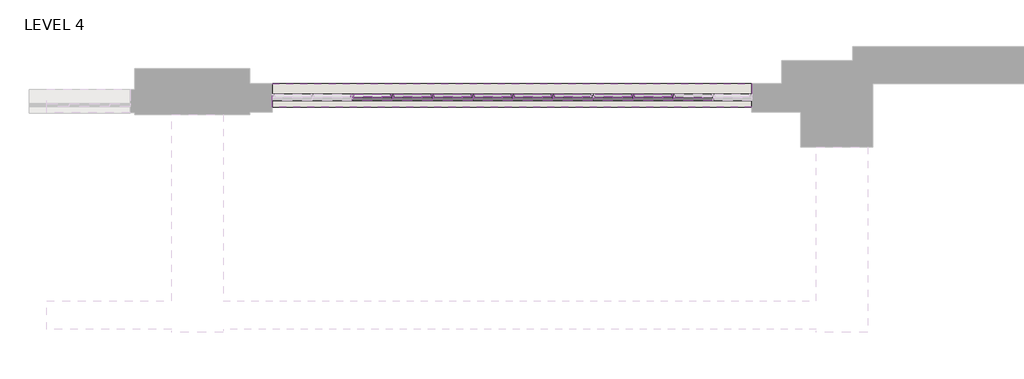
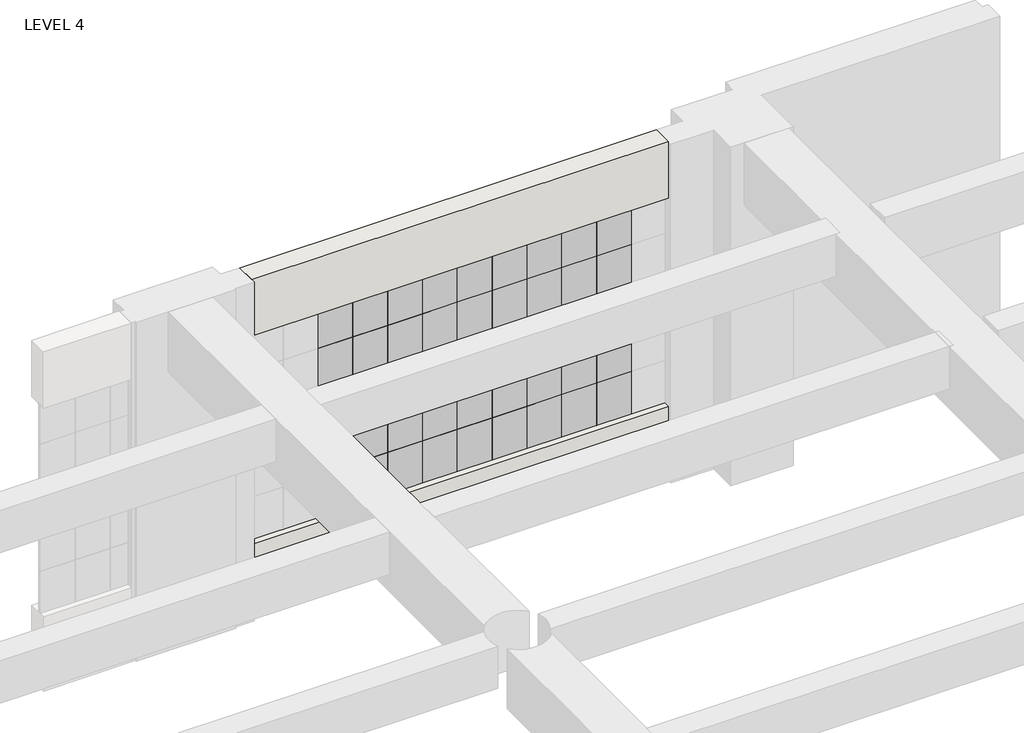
# One storey, part 14 of 26: 87 members, 45 plates, 2 walls.
"""IFC4 building model written with IfcOpenShell, lengths in millimetres."""

from ifc_helpers import new_model, si_unit, frame, origin, origin_with_axes, place, context, project, spatial, polyline, outline, extrude, transform, mapped, element, save
from components import member_d9fec558, member_3d4b608b, member_3c10d71f, member_653bb31e, system_panel_glazed_ab35d819, system_panel_glazed_418eb6cd

model = new_model("IFC4")

# Units and contexts
model_context = context("Model", 3, world=origin())
ifc_project = project(units=[si_unit("LENGTHUNIT", "METRE", prefix="MILLI")], contexts=[model_context])

# Site, building, storey
site = spatial("IfcSite", under=ifc_project)
building = spatial("IfcBuilding", under=site)
storey = spatial("IfcBuildingStorey", under=building, Name="LEVEL 4", Elevation=0.0)

# Members
placement = place(None, origin())
member_shape = member_d9fec558(model_context)
element("IfcMember", 1, ObjectType="Circular Mullion : 1 1/4\" Square", at=placement, inside=storey, context=model_context, shape_type="MappedRepresentation", body=[
    mapped(member_shape, transform((-10237.808547, 117287.443307, 2628.9), x_axis=(1.0, 0.0, 0.0), y_axis=(0.0, -1.0, 0.0), z_axis=(0.0, 0.0, -1.0))),
])
element("IfcMember", 2, ObjectType="Circular Mullion : 1 1/4\" Square", at=placement, inside=storey, context=model_context, shape_type="MappedRepresentation", body=[
    mapped(member_shape, transform((-10593.408547, 117287.443307, 2628.9), x_axis=(1.0, 0.0, 0.0), y_axis=(0.0, -1.0, 0.0), z_axis=(0.0, 0.0, -1.0))),
])
element("IfcMember", 3, ObjectType="Circular Mullion : 1 1/4\" Square", at=placement, inside=storey, context=model_context, shape_type="MappedRepresentation", body=[
    mapped(member_shape, transform((-11304.608547, 117287.443307, 2628.9), x_axis=(1.0, 0.0, 0.0), y_axis=(0.0, -1.0, 0.0), z_axis=(0.0, 0.0, -1.0))),
])
element("IfcMember", 4, ObjectType="Circular Mullion : 1 1/4\" Square", at=placement, inside=storey, context=model_context, shape_type="MappedRepresentation", body=[
    mapped(member_shape, transform((-11660.208547, 117287.443307, 2628.9), x_axis=(1.0, 0.0, 0.0), y_axis=(0.0, -1.0, 0.0), z_axis=(0.0, 0.0, -1.0))),
])
element("IfcMember", 5, ObjectType="Circular Mullion : 1 1/4\" Square", at=placement, inside=storey, context=model_context, shape_type="MappedRepresentation", body=[
    mapped(member_shape, transform((-12015.808547, 117287.443307, 2628.9), x_axis=(1.0, 0.0, 0.0), y_axis=(0.0, -1.0, 0.0), z_axis=(0.0, 0.0, -1.0))),
])
element("IfcMember", 6, ObjectType="Circular Mullion : 1 1/4\" Square", at=placement, inside=storey, context=model_context, shape_type="MappedRepresentation", body=[
    mapped(member_shape, transform((-12371.408547, 117287.443307, 2628.9), x_axis=(1.0, 0.0, 0.0), y_axis=(0.0, -1.0, 0.0), z_axis=(0.0, 0.0, -1.0))),
])
element("IfcMember", 7, ObjectType="Circular Mullion : 1 1/4\" Square", at=placement, inside=storey, context=model_context, shape_type="MappedRepresentation", body=[
    mapped(member_shape, transform((-12727.008547, 117287.443307, 2628.9), x_axis=(1.0, 0.0, 0.0), y_axis=(0.0, -1.0, 0.0), z_axis=(0.0, 0.0, -1.0))),
])
element("IfcMember", 8, ObjectType="Circular Mullion : 1 1/4\" Square", at=placement, inside=storey, context=model_context, shape_type="MappedRepresentation", body=[
    mapped(member_shape, transform((-13082.608547, 117287.443307, 2628.9), x_axis=(1.0, 0.0, 0.0), y_axis=(0.0, -1.0, 0.0), z_axis=(0.0, 0.0, -1.0))),
])
member_2_shape = member_3d4b608b(model_context)
element("IfcMember", 9, ObjectType="Circular Mullion : 1 1/4\" Square", at=placement, inside=storey, context=model_context, shape_type="MappedRepresentation", body=[
    mapped(member_2_shape, transform((-10237.808547, 117287.443307, 1257.3), x_axis=(1.0, 0.0, 0.0), y_axis=(0.0, -1.0, 0.0), z_axis=(0.0, 0.0, -1.0))),
])
element("IfcMember", 10, ObjectType="Circular Mullion : 1 1/4\" Square", at=placement, inside=storey, context=model_context, shape_type="MappedRepresentation", body=[
    mapped(member_2_shape, transform((-10237.808547, 117287.443307, 1714.5), x_axis=(1.0, 0.0, 0.0), y_axis=(0.0, -1.0, 0.0), z_axis=(0.0, 0.0, -1.0))),
])
element("IfcMember", 11, ObjectType="Circular Mullion : 1 1/4\" Square", at=placement, inside=storey, context=model_context, shape_type="MappedRepresentation", body=[
    mapped(member_2_shape, transform((-10237.808547, 117287.443307, 2171.7), x_axis=(1.0, 0.0, 0.0), y_axis=(0.0, -1.0, 0.0), z_axis=(0.0, 0.0, -1.0))),
])
element("IfcMember", 12, ObjectType="Circular Mullion : 1 1/4\" Square", at=placement, inside=storey, context=model_context, shape_type="MappedRepresentation", body=[
    mapped(member_2_shape, transform((-10593.408547, 117287.443307, 1257.3), x_axis=(1.0, 0.0, 0.0), y_axis=(0.0, -1.0, 0.0), z_axis=(0.0, 0.0, -1.0))),
])
element("IfcMember", 13, ObjectType="Circular Mullion : 1 1/4\" Square", at=placement, inside=storey, context=model_context, shape_type="MappedRepresentation", body=[
    mapped(member_2_shape, transform((-10593.408547, 117287.443307, 1714.5), x_axis=(1.0, 0.0, 0.0), y_axis=(0.0, -1.0, 0.0), z_axis=(0.0, 0.0, -1.0))),
])
element("IfcMember", 14, ObjectType="Circular Mullion : 1 1/4\" Square", at=placement, inside=storey, context=model_context, shape_type="MappedRepresentation", body=[
    mapped(member_2_shape, transform((-10593.408547, 117287.443307, 2171.7), x_axis=(1.0, 0.0, 0.0), y_axis=(0.0, -1.0, 0.0), z_axis=(0.0, 0.0, -1.0))),
])
element("IfcMember", 15, ObjectType="Circular Mullion : 1 1/4\" Square", at=placement, inside=storey, context=model_context, shape_type="MappedRepresentation", body=[
    mapped(member_2_shape, transform((-10949.008547, 117287.443307, 1257.3), x_axis=(1.0, 0.0, 0.0), y_axis=(0.0, -1.0, 0.0), z_axis=(0.0, 0.0, -1.0))),
])
element("IfcMember", 16, ObjectType="Circular Mullion : 1 1/4\" Square", at=placement, inside=storey, context=model_context, shape_type="MappedRepresentation", body=[
    mapped(member_2_shape, transform((-11304.608547, 117287.443307, 1257.3), x_axis=(1.0, 0.0, 0.0), y_axis=(0.0, -1.0, 0.0), z_axis=(0.0, 0.0, -1.0))),
])
element("IfcMember", 17, ObjectType="Circular Mullion : 1 1/4\" Square", at=placement, inside=storey, context=model_context, shape_type="MappedRepresentation", body=[
    mapped(member_2_shape, transform((-11304.608547, 117287.443307, 1714.5), x_axis=(1.0, 0.0, 0.0), y_axis=(0.0, -1.0, 0.0), z_axis=(0.0, 0.0, -1.0))),
])
element("IfcMember", 18, ObjectType="Circular Mullion : 1 1/4\" Square", at=placement, inside=storey, context=model_context, shape_type="MappedRepresentation", body=[
    mapped(member_2_shape, transform((-11304.608547, 117287.443307, 2171.7), x_axis=(1.0, 0.0, 0.0), y_axis=(0.0, -1.0, 0.0), z_axis=(0.0, 0.0, -1.0))),
])
element("IfcMember", 19, ObjectType="Circular Mullion : 1 1/4\" Square", at=placement, inside=storey, context=model_context, shape_type="MappedRepresentation", body=[
    mapped(member_2_shape, transform((-11660.208547, 117287.443307, 1257.3), x_axis=(1.0, 0.0, 0.0), y_axis=(0.0, -1.0, 0.0), z_axis=(0.0, 0.0, -1.0))),
])
element("IfcMember", 20, ObjectType="Circular Mullion : 1 1/4\" Square", at=placement, inside=storey, context=model_context, shape_type="MappedRepresentation", body=[
    mapped(member_2_shape, transform((-11660.208547, 117287.443307, 1714.5), x_axis=(1.0, 0.0, 0.0), y_axis=(0.0, -1.0, 0.0), z_axis=(0.0, 0.0, -1.0))),
])
element("IfcMember", 21, ObjectType="Circular Mullion : 1 1/4\" Square", at=placement, inside=storey, context=model_context, shape_type="MappedRepresentation", body=[
    mapped(member_2_shape, transform((-11660.208547, 117287.443307, 2171.7), x_axis=(1.0, 0.0, 0.0), y_axis=(0.0, -1.0, 0.0), z_axis=(0.0, 0.0, -1.0))),
])
element("IfcMember", 22, ObjectType="Circular Mullion : 1 1/4\" Square", at=placement, inside=storey, context=model_context, shape_type="MappedRepresentation", body=[
    mapped(member_2_shape, transform((-12015.808547, 117287.443307, 1257.3), x_axis=(1.0, 0.0, 0.0), y_axis=(0.0, -1.0, 0.0), z_axis=(0.0, 0.0, -1.0))),
])
element("IfcMember", 23, ObjectType="Circular Mullion : 1 1/4\" Square", at=placement, inside=storey, context=model_context, shape_type="MappedRepresentation", body=[
    mapped(member_2_shape, transform((-12015.808547, 117287.443307, 1714.5), x_axis=(1.0, 0.0, 0.0), y_axis=(0.0, -1.0, 0.0), z_axis=(0.0, 0.0, -1.0))),
])
element("IfcMember", 24, ObjectType="Circular Mullion : 1 1/4\" Square", at=placement, inside=storey, context=model_context, shape_type="MappedRepresentation", body=[
    mapped(member_2_shape, transform((-12015.808547, 117287.443307, 2171.7), x_axis=(1.0, 0.0, 0.0), y_axis=(0.0, -1.0, 0.0), z_axis=(0.0, 0.0, -1.0))),
])
element("IfcMember", 25, ObjectType="Circular Mullion : 1 1/4\" Square", at=placement, inside=storey, context=model_context, shape_type="MappedRepresentation", body=[
    mapped(member_2_shape, transform((-12371.408547, 117287.443307, 1257.3), x_axis=(1.0, 0.0, 0.0), y_axis=(0.0, -1.0, 0.0), z_axis=(0.0, 0.0, -1.0))),
])
element("IfcMember", 26, ObjectType="Circular Mullion : 1 1/4\" Square", at=placement, inside=storey, context=model_context, shape_type="MappedRepresentation", body=[
    mapped(member_2_shape, transform((-12371.408547, 117287.443307, 1714.5), x_axis=(1.0, 0.0, 0.0), y_axis=(0.0, -1.0, 0.0), z_axis=(0.0, 0.0, -1.0))),
])
element("IfcMember", 27, ObjectType="Circular Mullion : 1 1/4\" Square", at=placement, inside=storey, context=model_context, shape_type="MappedRepresentation", body=[
    mapped(member_2_shape, transform((-12371.408547, 117287.443307, 2171.7), x_axis=(1.0, 0.0, 0.0), y_axis=(0.0, -1.0, 0.0), z_axis=(0.0, 0.0, -1.0))),
])
element("IfcMember", 28, ObjectType="Circular Mullion : 1 1/4\" Square", at=placement, inside=storey, context=model_context, shape_type="MappedRepresentation", body=[
    mapped(member_2_shape, transform((-12727.008547, 117287.443307, 1257.3), x_axis=(1.0, 0.0, 0.0), y_axis=(0.0, -1.0, 0.0), z_axis=(0.0, 0.0, -1.0))),
])
element("IfcMember", 29, ObjectType="Circular Mullion : 1 1/4\" Square", at=placement, inside=storey, context=model_context, shape_type="MappedRepresentation", body=[
    mapped(member_2_shape, transform((-12727.008547, 117287.443307, 1714.5), x_axis=(1.0, 0.0, 0.0), y_axis=(0.0, -1.0, 0.0), z_axis=(0.0, 0.0, -1.0))),
])
element("IfcMember", 30, ObjectType="Circular Mullion : 1 1/4\" Square", at=placement, inside=storey, context=model_context, shape_type="MappedRepresentation", body=[
    mapped(member_2_shape, transform((-12727.008547, 117287.443307, 2171.7), x_axis=(1.0, 0.0, 0.0), y_axis=(0.0, -1.0, 0.0), z_axis=(0.0, 0.0, -1.0))),
])
element("IfcMember", 31, ObjectType="Circular Mullion : 1 1/4\" Square", at=placement, inside=storey, context=model_context, shape_type="MappedRepresentation", body=[
    mapped(member_2_shape, transform((-13082.608547, 117287.443307, 2171.7), x_axis=(1.0, 0.0, 0.0), y_axis=(0.0, -1.0, 0.0), z_axis=(0.0, 0.0, -1.0))),
])
element("IfcMember", 32, ObjectType="Circular Mullion : 1 1/4\" Square", at=placement, inside=storey, context=model_context, shape_type="MappedRepresentation", body=[
    mapped(member_2_shape, transform((-10237.808547, 117287.443307, 800.1), x_axis=(1.0, 0.0, 0.0), y_axis=(0.0, -1.0, 0.0), z_axis=(0.0, 0.0, -1.0))),
])
element("IfcMember", 33, ObjectType="Circular Mullion : 1 1/4\" Square", at=placement, inside=storey, context=model_context, shape_type="MappedRepresentation", body=[
    mapped(member_2_shape, transform((-10593.408547, 117287.443307, 800.1), x_axis=(1.0, 0.0, 0.0), y_axis=(0.0, -1.0, 0.0), z_axis=(0.0, 0.0, -1.0))),
])
element("IfcMember", 34, ObjectType="Circular Mullion : 1 1/4\" Square", at=placement, inside=storey, context=model_context, shape_type="MappedRepresentation", body=[
    mapped(member_2_shape, transform((-10949.008547, 117287.443307, 800.1), x_axis=(1.0, 0.0, 0.0), y_axis=(0.0, -1.0, 0.0), z_axis=(0.0, 0.0, -1.0))),
])
element("IfcMember", 35, ObjectType="Circular Mullion : 1 1/4\" Square", at=placement, inside=storey, context=model_context, shape_type="MappedRepresentation", body=[
    mapped(member_2_shape, transform((-11304.608547, 117287.443307, 800.1), x_axis=(1.0, 0.0, 0.0), y_axis=(0.0, -1.0, 0.0), z_axis=(0.0, 0.0, -1.0))),
])
element("IfcMember", 36, ObjectType="Circular Mullion : 1 1/4\" Square", at=placement, inside=storey, context=model_context, shape_type="MappedRepresentation", body=[
    mapped(member_2_shape, transform((-11660.208547, 117287.443307, 800.1), x_axis=(1.0, 0.0, 0.0), y_axis=(0.0, -1.0, 0.0), z_axis=(0.0, 0.0, -1.0))),
])
element("IfcMember", 37, ObjectType="Circular Mullion : 1 1/4\" Square", at=placement, inside=storey, context=model_context, shape_type="MappedRepresentation", body=[
    mapped(member_2_shape, transform((-12015.808547, 117287.443307, 800.1), x_axis=(1.0, 0.0, 0.0), y_axis=(0.0, -1.0, 0.0), z_axis=(0.0, 0.0, -1.0))),
])
element("IfcMember", 38, ObjectType="Circular Mullion : 1 1/4\" Square", at=placement, inside=storey, context=model_context, shape_type="MappedRepresentation", body=[
    mapped(member_2_shape, transform((-12371.408547, 117287.443307, 800.1), x_axis=(1.0, 0.0, 0.0), y_axis=(0.0, -1.0, 0.0), z_axis=(0.0, 0.0, -1.0))),
])
element("IfcMember", 39, ObjectType="Circular Mullion : 1 1/4\" Square", at=placement, inside=storey, context=model_context, shape_type="MappedRepresentation", body=[
    mapped(member_2_shape, transform((-12727.008547, 117287.443307, 800.1), x_axis=(1.0, 0.0, 0.0), y_axis=(0.0, -1.0, 0.0), z_axis=(0.0, 0.0, -1.0))),
])
member_3_shape = member_3c10d71f(model_context)
element("IfcMember", 40, ObjectType="Circular Mullion : 1 1/4\" Square", at=placement, inside=storey, context=model_context, shape_type="MappedRepresentation", body=[
    mapped(member_3_shape, transform((-10250.508547, 117287.443307, 3060.7), x_axis=(0.0, 0.0, 1.0), y_axis=(0.0, -1.0, 0.0), z_axis=(1.0, 0.0, 0.0))),
])
element("IfcMember", 41, ObjectType="Circular Mullion : 1 1/4\" Square", at=placement, inside=storey, context=model_context, shape_type="MappedRepresentation", body=[
    mapped(member_3_shape, transform((-10606.108547, 117287.443307, 3060.7), x_axis=(0.0, 0.0, 1.0), y_axis=(0.0, -1.0, 0.0), z_axis=(1.0, 0.0, 0.0))),
])
element("IfcMember", 42, ObjectType="Circular Mullion : 1 1/4\" Square", at=placement, inside=storey, context=model_context, shape_type="MappedRepresentation", body=[
    mapped(member_3_shape, transform((-10961.708547, 117287.443307, 3060.7), x_axis=(0.0, 0.0, 1.0), y_axis=(0.0, -1.0, 0.0), z_axis=(1.0, 0.0, 0.0))),
])
element("IfcMember", 43, ObjectType="Circular Mullion : 1 1/4\" Square", at=placement, inside=storey, context=model_context, shape_type="MappedRepresentation", body=[
    mapped(member_3_shape, transform((-11317.308547, 117287.443307, 3060.7), x_axis=(0.0, 0.0, 1.0), y_axis=(0.0, -1.0, 0.0), z_axis=(1.0, 0.0, 0.0))),
])
element("IfcMember", 44, ObjectType="Circular Mullion : 1 1/4\" Square", at=placement, inside=storey, context=model_context, shape_type="MappedRepresentation", body=[
    mapped(member_3_shape, transform((-11672.908547, 117287.443307, 3060.7), x_axis=(0.0, 0.0, 1.0), y_axis=(0.0, -1.0, 0.0), z_axis=(1.0, 0.0, 0.0))),
])
element("IfcMember", 45, ObjectType="Circular Mullion : 1 1/4\" Square", at=placement, inside=storey, context=model_context, shape_type="MappedRepresentation", body=[
    mapped(member_3_shape, transform((-12028.508547, 117287.443307, 3060.7), x_axis=(0.0, 0.0, 1.0), y_axis=(0.0, -1.0, 0.0), z_axis=(1.0, 0.0, 0.0))),
])
element("IfcMember", 46, ObjectType="Circular Mullion : 1 1/4\" Square", at=placement, inside=storey, context=model_context, shape_type="MappedRepresentation", body=[
    mapped(member_3_shape, transform((-12384.108547, 117287.443307, 3060.7), x_axis=(0.0, 0.0, 1.0), y_axis=(0.0, -1.0, 0.0), z_axis=(1.0, 0.0, 0.0))),
])
element("IfcMember", 47, ObjectType="Circular Mullion : 1 1/4\" Square", at=placement, inside=storey, context=model_context, shape_type="MappedRepresentation", body=[
    mapped(member_3_shape, transform((-12739.708547, 117287.443307, 3060.7), x_axis=(0.0, 0.0, 1.0), y_axis=(0.0, -1.0, 0.0), z_axis=(1.0, 0.0, 0.0))),
])
element("IfcMember", 48, ObjectType="Circular Mullion : 1 1/4\" Square", at=placement, inside=storey, context=model_context, shape_type="MappedRepresentation", body=[
    mapped(member_3_shape, transform((-10225.108547, 117287.443307, 800.1), x_axis=(0.0, 0.0, -1.0), y_axis=(0.0, -1.0, 0.0), z_axis=(-1.0, 0.0, 0.0))),
])
element("IfcMember", 49, ObjectType="Circular Mullion : 1 1/4\" Square", at=placement, inside=storey, context=model_context, shape_type="MappedRepresentation", body=[
    mapped(member_3_shape, transform((-10580.708547, 117287.443307, 800.1), x_axis=(0.0, 0.0, -1.0), y_axis=(0.0, -1.0, 0.0), z_axis=(-1.0, 0.0, 0.0))),
])
element("IfcMember", 50, ObjectType="Circular Mullion : 1 1/4\" Square", at=placement, inside=storey, context=model_context, shape_type="MappedRepresentation", body=[
    mapped(member_3_shape, transform((-10936.308547, 117287.443307, 800.1), x_axis=(0.0, 0.0, -1.0), y_axis=(0.0, -1.0, 0.0), z_axis=(-1.0, 0.0, 0.0))),
])
element("IfcMember", 51, ObjectType="Circular Mullion : 1 1/4\" Square", at=placement, inside=storey, context=model_context, shape_type="MappedRepresentation", body=[
    mapped(member_3_shape, transform((-11291.908547, 117287.443307, 800.1), x_axis=(0.0, 0.0, -1.0), y_axis=(0.0, -1.0, 0.0), z_axis=(-1.0, 0.0, 0.0))),
])
element("IfcMember", 52, ObjectType="Circular Mullion : 1 1/4\" Square", at=placement, inside=storey, context=model_context, shape_type="MappedRepresentation", body=[
    mapped(member_3_shape, transform((-11647.508547, 117287.443307, 800.1), x_axis=(0.0, 0.0, -1.0), y_axis=(0.0, -1.0, 0.0), z_axis=(-1.0, 0.0, 0.0))),
])
element("IfcMember", 53, ObjectType="Circular Mullion : 1 1/4\" Square", at=placement, inside=storey, context=model_context, shape_type="MappedRepresentation", body=[
    mapped(member_3_shape, transform((-12003.108547, 117287.443307, 800.1), x_axis=(0.0, 0.0, -1.0), y_axis=(0.0, -1.0, 0.0), z_axis=(-1.0, 0.0, 0.0))),
])
element("IfcMember", 54, ObjectType="Circular Mullion : 1 1/4\" Square", at=placement, inside=storey, context=model_context, shape_type="MappedRepresentation", body=[
    mapped(member_3_shape, transform((-12358.708547, 117287.443307, 800.1), x_axis=(0.0, 0.0, -1.0), y_axis=(0.0, -1.0, 0.0), z_axis=(-1.0, 0.0, 0.0))),
])
element("IfcMember", 55, ObjectType="Circular Mullion : 1 1/4\" Square", at=placement, inside=storey, context=model_context, shape_type="MappedRepresentation", body=[
    mapped(member_3_shape, transform((-12714.308547, 117287.443307, 800.1), x_axis=(0.0, 0.0, -1.0), y_axis=(0.0, -1.0, 0.0), z_axis=(-1.0, 0.0, 0.0))),
])
member_4_shape = member_653bb31e(model_context)
element("IfcMember", 56, ObjectType="Circular Mullion : 1 1/4\" Square", at=placement, inside=storey, context=model_context, shape_type="MappedRepresentation", body=[
    mapped(member_4_shape, transform((-10250.508547, 117287.443307, 1257.3), x_axis=(0.0, 0.0, 1.0), y_axis=(0.0, -1.0, 0.0), z_axis=(1.0, 0.0, 0.0))),
])
element("IfcMember", 57, ObjectType="Circular Mullion : 1 1/4\" Square", at=placement, inside=storey, context=model_context, shape_type="MappedRepresentation", body=[
    mapped(member_4_shape, transform((-10606.108547, 117287.443307, 1257.3), x_axis=(0.0, 0.0, 1.0), y_axis=(0.0, -1.0, 0.0), z_axis=(1.0, 0.0, 0.0))),
])
element("IfcMember", 58, ObjectType="Circular Mullion : 1 1/4\" Square", at=placement, inside=storey, context=model_context, shape_type="MappedRepresentation", body=[
    mapped(member_4_shape, transform((-10961.708547, 117287.443307, 1257.3), x_axis=(0.0, 0.0, 1.0), y_axis=(0.0, -1.0, 0.0), z_axis=(1.0, 0.0, 0.0))),
])
element("IfcMember", 59, ObjectType="Circular Mullion : 1 1/4\" Square", at=placement, inside=storey, context=model_context, shape_type="MappedRepresentation", body=[
    mapped(member_4_shape, transform((-11317.308547, 117287.443307, 1257.3), x_axis=(0.0, 0.0, 1.0), y_axis=(0.0, -1.0, 0.0), z_axis=(1.0, 0.0, 0.0))),
])
element("IfcMember", 60, ObjectType="Circular Mullion : 1 1/4\" Square", at=placement, inside=storey, context=model_context, shape_type="MappedRepresentation", body=[
    mapped(member_4_shape, transform((-11672.908547, 117287.443307, 1257.3), x_axis=(0.0, 0.0, 1.0), y_axis=(0.0, -1.0, 0.0), z_axis=(1.0, 0.0, 0.0))),
])
element("IfcMember", 61, ObjectType="Circular Mullion : 1 1/4\" Square", at=placement, inside=storey, context=model_context, shape_type="MappedRepresentation", body=[
    mapped(member_4_shape, transform((-12028.508547, 117287.443307, 1257.3), x_axis=(0.0, 0.0, 1.0), y_axis=(0.0, -1.0, 0.0), z_axis=(1.0, 0.0, 0.0))),
])
element("IfcMember", 62, ObjectType="Circular Mullion : 1 1/4\" Square", at=placement, inside=storey, context=model_context, shape_type="MappedRepresentation", body=[
    mapped(member_4_shape, transform((-12384.108547, 117287.443307, 1257.3), x_axis=(0.0, 0.0, 1.0), y_axis=(0.0, -1.0, 0.0), z_axis=(1.0, 0.0, 0.0))),
])
element("IfcMember", 63, ObjectType="Circular Mullion : 1 1/4\" Square", at=placement, inside=storey, context=model_context, shape_type="MappedRepresentation", body=[
    mapped(member_4_shape, transform((-12739.708547, 117287.443307, 1257.3), x_axis=(0.0, 0.0, 1.0), y_axis=(0.0, -1.0, 0.0), z_axis=(1.0, 0.0, 0.0))),
])
element("IfcMember", 64, ObjectType="Circular Mullion : 1 1/4\" Square", at=placement, inside=storey, context=model_context, shape_type="MappedRepresentation", body=[
    mapped(member_4_shape, transform((-10250.508547, 117287.443307, 1714.5), x_axis=(0.0, 0.0, 1.0), y_axis=(0.0, -1.0, 0.0), z_axis=(1.0, 0.0, 0.0))),
])
element("IfcMember", 65, ObjectType="Circular Mullion : 1 1/4\" Square", at=placement, inside=storey, context=model_context, shape_type="MappedRepresentation", body=[
    mapped(member_4_shape, transform((-10606.108547, 117287.443307, 1714.5), x_axis=(0.0, 0.0, 1.0), y_axis=(0.0, -1.0, 0.0), z_axis=(1.0, 0.0, 0.0))),
])
element("IfcMember", 66, ObjectType="Circular Mullion : 1 1/4\" Square", at=placement, inside=storey, context=model_context, shape_type="MappedRepresentation", body=[
    mapped(member_4_shape, transform((-10961.708547, 117287.443307, 1714.5), x_axis=(0.0, 0.0, 1.0), y_axis=(0.0, -1.0, 0.0), z_axis=(1.0, 0.0, 0.0))),
])
element("IfcMember", 67, ObjectType="Circular Mullion : 1 1/4\" Square", at=placement, inside=storey, context=model_context, shape_type="MappedRepresentation", body=[
    mapped(member_4_shape, transform((-11317.308547, 117287.443307, 1714.5), x_axis=(0.0, 0.0, 1.0), y_axis=(0.0, -1.0, 0.0), z_axis=(1.0, 0.0, 0.0))),
])
element("IfcMember", 68, ObjectType="Circular Mullion : 1 1/4\" Square", at=placement, inside=storey, context=model_context, shape_type="MappedRepresentation", body=[
    mapped(member_4_shape, transform((-11672.908547, 117287.443307, 1714.5), x_axis=(0.0, 0.0, 1.0), y_axis=(0.0, -1.0, 0.0), z_axis=(1.0, 0.0, 0.0))),
])
element("IfcMember", 69, ObjectType="Circular Mullion : 1 1/4\" Square", at=placement, inside=storey, context=model_context, shape_type="MappedRepresentation", body=[
    mapped(member_4_shape, transform((-12028.508547, 117287.443307, 1714.5), x_axis=(0.0, 0.0, 1.0), y_axis=(0.0, -1.0, 0.0), z_axis=(1.0, 0.0, 0.0))),
])
element("IfcMember", 70, ObjectType="Circular Mullion : 1 1/4\" Square", at=placement, inside=storey, context=model_context, shape_type="MappedRepresentation", body=[
    mapped(member_4_shape, transform((-12384.108547, 117287.443307, 1714.5), x_axis=(0.0, 0.0, 1.0), y_axis=(0.0, -1.0, 0.0), z_axis=(1.0, 0.0, 0.0))),
])
element("IfcMember", 71, ObjectType="Circular Mullion : 1 1/4\" Square", at=placement, inside=storey, context=model_context, shape_type="MappedRepresentation", body=[
    mapped(member_4_shape, transform((-12739.708547, 117287.443307, 1714.5), x_axis=(0.0, 0.0, 1.0), y_axis=(0.0, -1.0, 0.0), z_axis=(1.0, 0.0, 0.0))),
])
element("IfcMember", 72, ObjectType="Circular Mullion : 1 1/4\" Square", at=placement, inside=storey, context=model_context, shape_type="MappedRepresentation", body=[
    mapped(member_4_shape, transform((-10250.508547, 117287.443307, 2171.7), x_axis=(0.0, 0.0, 1.0), y_axis=(0.0, -1.0, 0.0), z_axis=(1.0, 0.0, 0.0))),
])
element("IfcMember", 73, ObjectType="Circular Mullion : 1 1/4\" Square", at=placement, inside=storey, context=model_context, shape_type="MappedRepresentation", body=[
    mapped(member_4_shape, transform((-10606.108547, 117287.443307, 2171.7), x_axis=(0.0, 0.0, 1.0), y_axis=(0.0, -1.0, 0.0), z_axis=(1.0, 0.0, 0.0))),
])
element("IfcMember", 74, ObjectType="Circular Mullion : 1 1/4\" Square", at=placement, inside=storey, context=model_context, shape_type="MappedRepresentation", body=[
    mapped(member_4_shape, transform((-10961.708547, 117287.443307, 2171.7), x_axis=(0.0, 0.0, 1.0), y_axis=(0.0, -1.0, 0.0), z_axis=(1.0, 0.0, 0.0))),
])
element("IfcMember", 75, ObjectType="Circular Mullion : 1 1/4\" Square", at=placement, inside=storey, context=model_context, shape_type="MappedRepresentation", body=[
    mapped(member_4_shape, transform((-11317.308547, 117287.443307, 2171.7), x_axis=(0.0, 0.0, 1.0), y_axis=(0.0, -1.0, 0.0), z_axis=(1.0, 0.0, 0.0))),
])
element("IfcMember", 76, ObjectType="Circular Mullion : 1 1/4\" Square", at=placement, inside=storey, context=model_context, shape_type="MappedRepresentation", body=[
    mapped(member_4_shape, transform((-11672.908547, 117287.443307, 2171.7), x_axis=(0.0, 0.0, 1.0), y_axis=(0.0, -1.0, 0.0), z_axis=(1.0, 0.0, 0.0))),
])
element("IfcMember", 77, ObjectType="Circular Mullion : 1 1/4\" Square", at=placement, inside=storey, context=model_context, shape_type="MappedRepresentation", body=[
    mapped(member_4_shape, transform((-12028.508547, 117287.443307, 2171.7), x_axis=(0.0, 0.0, 1.0), y_axis=(0.0, -1.0, 0.0), z_axis=(1.0, 0.0, 0.0))),
])
element("IfcMember", 78, ObjectType="Circular Mullion : 1 1/4\" Square", at=placement, inside=storey, context=model_context, shape_type="MappedRepresentation", body=[
    mapped(member_4_shape, transform((-12384.108547, 117287.443307, 2171.7), x_axis=(0.0, 0.0, 1.0), y_axis=(0.0, -1.0, 0.0), z_axis=(1.0, 0.0, 0.0))),
])
element("IfcMember", 79, ObjectType="Circular Mullion : 1 1/4\" Square", at=placement, inside=storey, context=model_context, shape_type="MappedRepresentation", body=[
    mapped(member_4_shape, transform((-12739.708547, 117287.443307, 2171.7), x_axis=(0.0, 0.0, 1.0), y_axis=(0.0, -1.0, 0.0), z_axis=(1.0, 0.0, 0.0))),
])
element("IfcMember", 80, ObjectType="Circular Mullion : 1 1/4\" Square", at=placement, inside=storey, context=model_context, shape_type="MappedRepresentation", body=[
    mapped(member_4_shape, transform((-10250.508547, 117287.443307, 2628.9), x_axis=(0.0, 0.0, 1.0), y_axis=(0.0, -1.0, 0.0), z_axis=(1.0, 0.0, 0.0))),
])
element("IfcMember", 81, ObjectType="Circular Mullion : 1 1/4\" Square", at=placement, inside=storey, context=model_context, shape_type="MappedRepresentation", body=[
    mapped(member_4_shape, transform((-10606.108547, 117287.443307, 2628.9), x_axis=(0.0, 0.0, 1.0), y_axis=(0.0, -1.0, 0.0), z_axis=(1.0, 0.0, 0.0))),
])
element("IfcMember", 82, ObjectType="Circular Mullion : 1 1/4\" Square", at=placement, inside=storey, context=model_context, shape_type="MappedRepresentation", body=[
    mapped(member_4_shape, transform((-10961.708547, 117287.443307, 2628.9), x_axis=(0.0, 0.0, 1.0), y_axis=(0.0, -1.0, 0.0), z_axis=(1.0, 0.0, 0.0))),
])
element("IfcMember", 83, ObjectType="Circular Mullion : 1 1/4\" Square", at=placement, inside=storey, context=model_context, shape_type="MappedRepresentation", body=[
    mapped(member_4_shape, transform((-11317.308547, 117287.443307, 2628.9), x_axis=(0.0, 0.0, 1.0), y_axis=(0.0, -1.0, 0.0), z_axis=(1.0, 0.0, 0.0))),
])
element("IfcMember", 84, ObjectType="Circular Mullion : 1 1/4\" Square", at=placement, inside=storey, context=model_context, shape_type="MappedRepresentation", body=[
    mapped(member_4_shape, transform((-11672.908547, 117287.443307, 2628.9), x_axis=(0.0, 0.0, 1.0), y_axis=(0.0, -1.0, 0.0), z_axis=(1.0, 0.0, 0.0))),
])
element("IfcMember", 85, ObjectType="Circular Mullion : 1 1/4\" Square", at=placement, inside=storey, context=model_context, shape_type="MappedRepresentation", body=[
    mapped(member_4_shape, transform((-12028.508547, 117287.443307, 2628.9), x_axis=(0.0, 0.0, 1.0), y_axis=(0.0, -1.0, 0.0), z_axis=(1.0, 0.0, 0.0))),
])
element("IfcMember", 86, ObjectType="Circular Mullion : 1 1/4\" Square", at=placement, inside=storey, context=model_context, shape_type="MappedRepresentation", body=[
    mapped(member_4_shape, transform((-12384.108547, 117287.443307, 2628.9), x_axis=(0.0, 0.0, 1.0), y_axis=(0.0, -1.0, 0.0), z_axis=(1.0, 0.0, 0.0))),
])
element("IfcMember", 87, ObjectType="Circular Mullion : 1 1/4\" Square", at=placement, inside=storey, context=model_context, shape_type="MappedRepresentation", body=[
    mapped(member_4_shape, transform((-12739.708547, 117287.443307, 2628.9), x_axis=(0.0, 0.0, 1.0), y_axis=(0.0, -1.0, 0.0), z_axis=(1.0, 0.0, 0.0))),
])

# Plates
system_panel_glazed_shape = system_panel_glazed_ab35d819(model_context)
element("IfcPlate", 88, ObjectType="System Panel : Glazed", at=placement, inside=storey, context=model_context, shape_type="MappedRepresentation", body=[
    mapped(system_panel_glazed_shape, transform((-10060.008547, 117287.443307, 800.1), x_axis=(1.0, 0.0, 0.0), y_axis=(0.0, 1.0, 0.0), z_axis=(0.0, 0.0, 1.0))),
])
element("IfcPlate", 89, ObjectType="System Panel : Glazed", at=placement, inside=storey, context=model_context, shape_type="MappedRepresentation", body=[
    mapped(system_panel_glazed_shape, transform((-10415.608547, 117287.443307, 800.1), x_axis=(1.0, 0.0, 0.0), y_axis=(0.0, 1.0, 0.0), z_axis=(0.0, 0.0, 1.0))),
])
element("IfcPlate", 90, ObjectType="System Panel : Glazed", at=placement, inside=storey, context=model_context, shape_type="MappedRepresentation", body=[
    mapped(system_panel_glazed_shape, transform((-10771.208547, 117287.443307, 800.1), x_axis=(1.0, 0.0, 0.0), y_axis=(0.0, 1.0, 0.0), z_axis=(0.0, 0.0, 1.0))),
])
element("IfcPlate", 91, ObjectType="System Panel : Glazed", at=placement, inside=storey, context=model_context, shape_type="MappedRepresentation", body=[
    mapped(system_panel_glazed_shape, transform((-11126.808547, 117287.443307, 800.1), x_axis=(1.0, 0.0, 0.0), y_axis=(0.0, 1.0, 0.0), z_axis=(0.0, 0.0, 1.0))),
])
element("IfcPlate", 92, ObjectType="System Panel : Glazed", at=placement, inside=storey, context=model_context, shape_type="MappedRepresentation", body=[
    mapped(system_panel_glazed_shape, transform((-11482.408547, 117287.443307, 800.1), x_axis=(1.0, 0.0, 0.0), y_axis=(0.0, 1.0, 0.0), z_axis=(0.0, 0.0, 1.0))),
])
element("IfcPlate", 93, ObjectType="System Panel : Glazed", at=placement, inside=storey, context=model_context, shape_type="MappedRepresentation", body=[
    mapped(system_panel_glazed_shape, transform((-11838.008547, 117287.443307, 800.1), x_axis=(1.0, 0.0, 0.0), y_axis=(0.0, 1.0, 0.0), z_axis=(0.0, 0.0, 1.0))),
])
element("IfcPlate", 94, ObjectType="System Panel : Glazed", at=placement, inside=storey, context=model_context, shape_type="MappedRepresentation", body=[
    mapped(system_panel_glazed_shape, transform((-12193.608547, 117287.443307, 800.1), x_axis=(1.0, 0.0, 0.0), y_axis=(0.0, 1.0, 0.0), z_axis=(0.0, 0.0, 1.0))),
])
element("IfcPlate", 95, ObjectType="System Panel : Glazed", at=placement, inside=storey, context=model_context, shape_type="MappedRepresentation", body=[
    mapped(system_panel_glazed_shape, transform((-12549.208547, 117287.443307, 800.1), x_axis=(1.0, 0.0, 0.0), y_axis=(0.0, 1.0, 0.0), z_axis=(0.0, 0.0, 1.0))),
])
element("IfcPlate", 96, ObjectType="System Panel : Glazed", at=placement, inside=storey, context=model_context, shape_type="MappedRepresentation", body=[
    mapped(system_panel_glazed_shape, transform((-10415.608547, 117287.443307, 1257.3), x_axis=(1.0, 0.0, 0.0), y_axis=(0.0, 1.0, 0.0), z_axis=(0.0, 0.0, 1.0))),
])
element("IfcPlate", 97, ObjectType="System Panel : Glazed", at=placement, inside=storey, context=model_context, shape_type="MappedRepresentation", body=[
    mapped(system_panel_glazed_shape, transform((-10771.208547, 117287.443307, 1257.3), x_axis=(1.0, 0.0, 0.0), y_axis=(0.0, 1.0, 0.0), z_axis=(0.0, 0.0, 1.0))),
])
element("IfcPlate", 98, ObjectType="System Panel : Glazed", at=placement, inside=storey, context=model_context, shape_type="MappedRepresentation", body=[
    mapped(system_panel_glazed_shape, transform((-11126.808547, 117287.443307, 1257.3), x_axis=(1.0, 0.0, 0.0), y_axis=(0.0, 1.0, 0.0), z_axis=(0.0, 0.0, 1.0))),
])
element("IfcPlate", 99, ObjectType="System Panel : Glazed", at=placement, inside=storey, context=model_context, shape_type="MappedRepresentation", body=[
    mapped(system_panel_glazed_shape, transform((-11482.408547, 117287.443307, 1257.3), x_axis=(1.0, 0.0, 0.0), y_axis=(0.0, 1.0, 0.0), z_axis=(0.0, 0.0, 1.0))),
])
element("IfcPlate", 100, ObjectType="System Panel : Glazed", at=placement, inside=storey, context=model_context, shape_type="MappedRepresentation", body=[
    mapped(system_panel_glazed_shape, transform((-11838.008547, 117287.443307, 1257.3), x_axis=(1.0, 0.0, 0.0), y_axis=(0.0, 1.0, 0.0), z_axis=(0.0, 0.0, 1.0))),
])
element("IfcPlate", 101, ObjectType="System Panel : Glazed", at=placement, inside=storey, context=model_context, shape_type="MappedRepresentation", body=[
    mapped(system_panel_glazed_shape, transform((-12193.608547, 117287.443307, 1257.3), x_axis=(1.0, 0.0, 0.0), y_axis=(0.0, 1.0, 0.0), z_axis=(0.0, 0.0, 1.0))),
])
element("IfcPlate", 102, ObjectType="System Panel : Glazed", at=placement, inside=storey, context=model_context, shape_type="MappedRepresentation", body=[
    mapped(system_panel_glazed_shape, transform((-12549.208547, 117287.443307, 1257.3), x_axis=(1.0, 0.0, 0.0), y_axis=(0.0, 1.0, 0.0), z_axis=(0.0, 0.0, 1.0))),
])
element("IfcPlate", 103, ObjectType="System Panel : Glazed", at=placement, inside=storey, context=model_context, shape_type="MappedRepresentation", body=[
    mapped(system_panel_glazed_shape, transform((-10060.008547, 117287.443307, 1257.3), x_axis=(1.0, 0.0, 0.0), y_axis=(0.0, 1.0, 0.0), z_axis=(0.0, 0.0, 1.0))),
])
element("IfcPlate", 104, ObjectType="System Panel : Glazed", at=placement, inside=storey, context=model_context, shape_type="MappedRepresentation", body=[
    mapped(system_panel_glazed_shape, transform((-10415.608547, 117287.443307, 1714.5), x_axis=(1.0, 0.0, 0.0), y_axis=(0.0, 1.0, 0.0), z_axis=(0.0, 0.0, 1.0))),
])
element("IfcPlate", 105, ObjectType="System Panel : Glazed", at=placement, inside=storey, context=model_context, shape_type="MappedRepresentation", body=[
    mapped(system_panel_glazed_shape, transform((-10771.208547, 117287.443307, 1714.5), x_axis=(1.0, 0.0, 0.0), y_axis=(0.0, 1.0, 0.0), z_axis=(0.0, 0.0, 1.0))),
])
element("IfcPlate", 106, ObjectType="System Panel : Glazed", at=placement, inside=storey, context=model_context, shape_type="MappedRepresentation", body=[
    mapped(system_panel_glazed_shape, transform((-11126.808547, 117287.443307, 1714.5), x_axis=(1.0, 0.0, 0.0), y_axis=(0.0, 1.0, 0.0), z_axis=(0.0, 0.0, 1.0))),
])
element("IfcPlate", 107, ObjectType="System Panel : Glazed", at=placement, inside=storey, context=model_context, shape_type="MappedRepresentation", body=[
    mapped(system_panel_glazed_shape, transform((-11482.408547, 117287.443307, 1714.5), x_axis=(1.0, 0.0, 0.0), y_axis=(0.0, 1.0, 0.0), z_axis=(0.0, 0.0, 1.0))),
])
element("IfcPlate", 108, ObjectType="System Panel : Glazed", at=placement, inside=storey, context=model_context, shape_type="MappedRepresentation", body=[
    mapped(system_panel_glazed_shape, transform((-11838.008547, 117287.443307, 1714.5), x_axis=(1.0, 0.0, 0.0), y_axis=(0.0, 1.0, 0.0), z_axis=(0.0, 0.0, 1.0))),
])
element("IfcPlate", 109, ObjectType="System Panel : Glazed", at=placement, inside=storey, context=model_context, shape_type="MappedRepresentation", body=[
    mapped(system_panel_glazed_shape, transform((-12193.608547, 117287.443307, 1714.5), x_axis=(1.0, 0.0, 0.0), y_axis=(0.0, 1.0, 0.0), z_axis=(0.0, 0.0, 1.0))),
])
element("IfcPlate", 110, ObjectType="System Panel : Glazed", at=placement, inside=storey, context=model_context, shape_type="MappedRepresentation", body=[
    mapped(system_panel_glazed_shape, transform((-12549.208547, 117287.443307, 1714.5), x_axis=(1.0, 0.0, 0.0), y_axis=(0.0, 1.0, 0.0), z_axis=(0.0, 0.0, 1.0))),
])
element("IfcPlate", 111, ObjectType="System Panel : Glazed", at=placement, inside=storey, context=model_context, shape_type="MappedRepresentation", body=[
    mapped(system_panel_glazed_shape, transform((-10060.008547, 117287.443307, 1714.5), x_axis=(1.0, 0.0, 0.0), y_axis=(0.0, 1.0, 0.0), z_axis=(0.0, 0.0, 1.0))),
])
element("IfcPlate", 112, ObjectType="System Panel : Glazed", at=placement, inside=storey, context=model_context, shape_type="MappedRepresentation", body=[
    mapped(system_panel_glazed_shape, transform((-10415.608547, 117287.443307, 2171.7), x_axis=(1.0, 0.0, 0.0), y_axis=(0.0, 1.0, 0.0), z_axis=(0.0, 0.0, 1.0))),
])
element("IfcPlate", 113, ObjectType="System Panel : Glazed", at=placement, inside=storey, context=model_context, shape_type="MappedRepresentation", body=[
    mapped(system_panel_glazed_shape, transform((-10771.208547, 117287.443307, 2171.7), x_axis=(1.0, 0.0, 0.0), y_axis=(0.0, 1.0, 0.0), z_axis=(0.0, 0.0, 1.0))),
])
element("IfcPlate", 114, ObjectType="System Panel : Glazed", at=placement, inside=storey, context=model_context, shape_type="MappedRepresentation", body=[
    mapped(system_panel_glazed_shape, transform((-11126.808547, 117287.443307, 2171.7), x_axis=(1.0, 0.0, 0.0), y_axis=(0.0, 1.0, 0.0), z_axis=(0.0, 0.0, 1.0))),
])
element("IfcPlate", 115, ObjectType="System Panel : Glazed", at=placement, inside=storey, context=model_context, shape_type="MappedRepresentation", body=[
    mapped(system_panel_glazed_shape, transform((-11482.408547, 117287.443307, 2171.7), x_axis=(1.0, 0.0, 0.0), y_axis=(0.0, 1.0, 0.0), z_axis=(0.0, 0.0, 1.0))),
])
element("IfcPlate", 116, ObjectType="System Panel : Glazed", at=placement, inside=storey, context=model_context, shape_type="MappedRepresentation", body=[
    mapped(system_panel_glazed_shape, transform((-11838.008547, 117287.443307, 2171.7), x_axis=(1.0, 0.0, 0.0), y_axis=(0.0, 1.0, 0.0), z_axis=(0.0, 0.0, 1.0))),
])
element("IfcPlate", 117, ObjectType="System Panel : Glazed", at=placement, inside=storey, context=model_context, shape_type="MappedRepresentation", body=[
    mapped(system_panel_glazed_shape, transform((-12193.608547, 117287.443307, 2171.7), x_axis=(1.0, 0.0, 0.0), y_axis=(0.0, 1.0, 0.0), z_axis=(0.0, 0.0, 1.0))),
])
element("IfcPlate", 118, ObjectType="System Panel : Glazed", at=placement, inside=storey, context=model_context, shape_type="MappedRepresentation", body=[
    mapped(system_panel_glazed_shape, transform((-12549.208547, 117287.443307, 2171.7), x_axis=(1.0, 0.0, 0.0), y_axis=(0.0, 1.0, 0.0), z_axis=(0.0, 0.0, 1.0))),
])
element("IfcPlate", 119, ObjectType="System Panel : Glazed", at=placement, inside=storey, context=model_context, shape_type="MappedRepresentation", body=[
    mapped(system_panel_glazed_shape, transform((-10060.008547, 117287.443307, 2171.7), x_axis=(1.0, 0.0, 0.0), y_axis=(0.0, 1.0, 0.0), z_axis=(0.0, 0.0, 1.0))),
])
element("IfcPlate", 120, ObjectType="System Panel : Glazed", at=placement, inside=storey, context=model_context, shape_type="MappedRepresentation", body=[
    mapped(system_panel_glazed_shape, transform((-12904.808547, 117287.443307, 800.1), x_axis=(1.0, 0.0, 0.0), y_axis=(0.0, 1.0, 0.0), z_axis=(0.0, 0.0, 1.0))),
])
element("IfcPlate", 121, ObjectType="System Panel : Glazed", at=placement, inside=storey, context=model_context, shape_type="MappedRepresentation", body=[
    mapped(system_panel_glazed_shape, transform((-12904.808547, 117287.443307, 1257.3), x_axis=(1.0, 0.0, 0.0), y_axis=(0.0, 1.0, 0.0), z_axis=(0.0, 0.0, 1.0))),
])
element("IfcPlate", 122, ObjectType="System Panel : Glazed", at=placement, inside=storey, context=model_context, shape_type="MappedRepresentation", body=[
    mapped(system_panel_glazed_shape, transform((-12904.808547, 117287.443307, 1714.5), x_axis=(1.0, 0.0, 0.0), y_axis=(0.0, 1.0, 0.0), z_axis=(0.0, 0.0, 1.0))),
])
element("IfcPlate", 123, ObjectType="System Panel : Glazed", at=placement, inside=storey, context=model_context, shape_type="MappedRepresentation", body=[
    mapped(system_panel_glazed_shape, transform((-12904.808547, 117287.443307, 2171.7), x_axis=(1.0, 0.0, 0.0), y_axis=(0.0, 1.0, 0.0), z_axis=(0.0, 0.0, 1.0))),
])
system_panel_glazed_2_shape = system_panel_glazed_418eb6cd(model_context)
element("IfcPlate", 124, ObjectType="System Panel : Glazed", at=placement, inside=storey, context=model_context, shape_type="MappedRepresentation", body=[
    mapped(system_panel_glazed_2_shape, transform((-10415.608547, 117287.443307, 2628.9), x_axis=(1.0, 0.0, 0.0), y_axis=(0.0, 1.0, 0.0), z_axis=(0.0, 0.0, 1.0))),
])
element("IfcPlate", 125, ObjectType="System Panel : Glazed", at=placement, inside=storey, context=model_context, shape_type="MappedRepresentation", body=[
    mapped(system_panel_glazed_2_shape, transform((-10771.208547, 117287.443307, 2628.9), x_axis=(1.0, 0.0, 0.0), y_axis=(0.0, 1.0, 0.0), z_axis=(0.0, 0.0, 1.0))),
])
element("IfcPlate", 126, ObjectType="System Panel : Glazed", at=placement, inside=storey, context=model_context, shape_type="MappedRepresentation", body=[
    mapped(system_panel_glazed_2_shape, transform((-11126.808547, 117287.443307, 2628.9), x_axis=(1.0, 0.0, 0.0), y_axis=(0.0, 1.0, 0.0), z_axis=(0.0, 0.0, 1.0))),
])
element("IfcPlate", 127, ObjectType="System Panel : Glazed", at=placement, inside=storey, context=model_context, shape_type="MappedRepresentation", body=[
    mapped(system_panel_glazed_2_shape, transform((-11482.408547, 117287.443307, 2628.9), x_axis=(1.0, 0.0, 0.0), y_axis=(0.0, 1.0, 0.0), z_axis=(0.0, 0.0, 1.0))),
])
element("IfcPlate", 128, ObjectType="System Panel : Glazed", at=placement, inside=storey, context=model_context, shape_type="MappedRepresentation", body=[
    mapped(system_panel_glazed_2_shape, transform((-11838.008547, 117287.443307, 2628.9), x_axis=(1.0, 0.0, 0.0), y_axis=(0.0, 1.0, 0.0), z_axis=(0.0, 0.0, 1.0))),
])
element("IfcPlate", 129, ObjectType="System Panel : Glazed", at=placement, inside=storey, context=model_context, shape_type="MappedRepresentation", body=[
    mapped(system_panel_glazed_2_shape, transform((-12193.608547, 117287.443307, 2628.9), x_axis=(1.0, 0.0, 0.0), y_axis=(0.0, 1.0, 0.0), z_axis=(0.0, 0.0, 1.0))),
])
element("IfcPlate", 130, ObjectType="System Panel : Glazed", at=placement, inside=storey, context=model_context, shape_type="MappedRepresentation", body=[
    mapped(system_panel_glazed_2_shape, transform((-12549.208547, 117287.443307, 2628.9), x_axis=(1.0, 0.0, 0.0), y_axis=(0.0, 1.0, 0.0), z_axis=(0.0, 0.0, 1.0))),
])
element("IfcPlate", 131, ObjectType="System Panel : Glazed", at=placement, inside=storey, context=model_context, shape_type="MappedRepresentation", body=[
    mapped(system_panel_glazed_2_shape, transform((-10060.008547, 117287.443307, 2628.9), x_axis=(1.0, 0.0, 0.0), y_axis=(0.0, 1.0, 0.0), z_axis=(0.0, 0.0, 1.0))),
])
element("IfcPlate", 132, ObjectType="System Panel : Glazed", at=placement, inside=storey, context=model_context, shape_type="MappedRepresentation", body=[
    mapped(system_panel_glazed_2_shape, transform((-12904.808547, 117287.443307, 2628.9), x_axis=(1.0, 0.0, 0.0), y_axis=(0.0, 1.0, 0.0), z_axis=(0.0, 0.0, 1.0))),
])

# Walls
element("IfcWall", 133, ObjectType="_Generic - 8 1/4\"", at=placement, inside=storey, context=model_context, shape_type="SweptSolid", body=[
    extrude(outline(polyline([(-9539.3085473, 117182.668307), (-13793.8085473, 117182.668307), (-13793.8085473, 117392.218307), (-9539.3085473, 117392.218307), (-9539.3085473, 117182.668307)])), origin_with_axes(), (0.0, 0.0, 1.0), 800.1),
])
element("IfcWall", 134, ObjectType="_Generic - 8 1/4\"", at=placement, inside=storey, context=model_context, shape_type="SweptSolid", body=[
    extrude(outline(polyline([(-13793.8085473, 117392.218307), (-9539.3085473, 117392.218307), (-9539.3085473, 117182.668307), (-13793.8085473, 117182.668307), (-13793.8085473, 117392.218307)])), frame((0.0, 0.0, 3048.0), z_axis=(0.0, 0.0, 1.0), x_axis=(1.0, 0.0, 0.0)), (0.0, 0.0, 1.0), 609.6),
])

save(model, "model.ifc")
